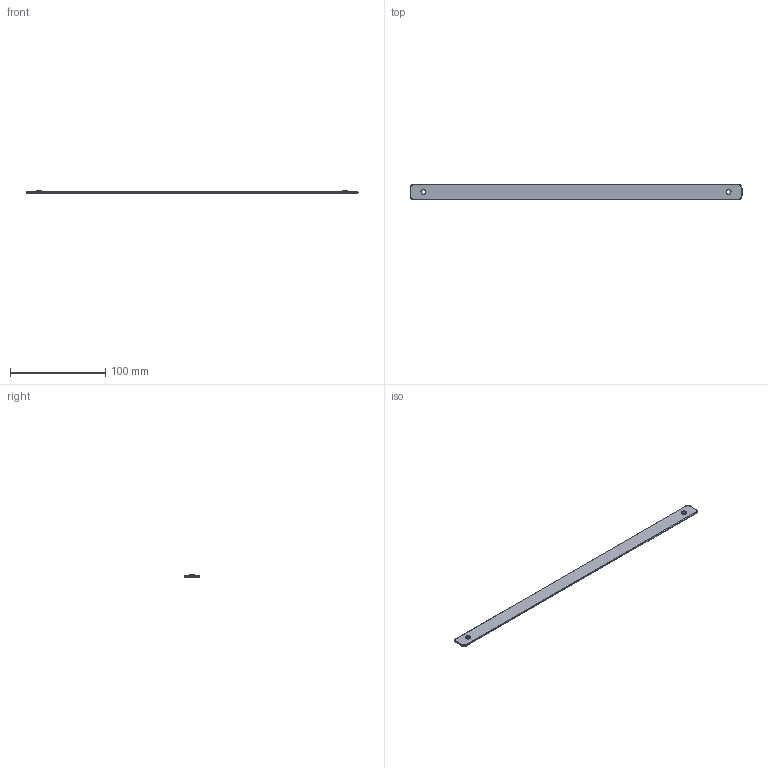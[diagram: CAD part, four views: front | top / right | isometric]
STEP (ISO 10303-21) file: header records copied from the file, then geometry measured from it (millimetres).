
FILE_DESCRIPTION(('Open CASCADE Model'),'2;1');
FILE_NAME('W-BAR-WL320-16','2026-10-19T21:23:53',('Author'),( 'Open CASCADE'),'Open CASCADE STEP processor 8.0','build123d', 'Unknown');
FILE_SCHEMA(('AUTOMOTIVE_DESIGN { 1 0 10303 214 1 1 1 1 }'));
Length unit declared in the file: millimetre
Products named in the file (2): W-BAR-WL320-16; brass_WL320-16__w
Assembly tree (1 placements, depth 2):
  W-BAR-WL320-16
    brass_WL320-16__w
Bounding box: 348 x 16 x 2.49 mm (x, y, z)
Volume: 8227.9 mm3; surface area: 11960.1 mm2
Topology: 1 solids, 1 shells, 32 faces, 68 edges, 40 vertices
Faces by surface type: plane 12, cylinder 12, cone 4, torus 4
Full cylindrical faces by diameter (mm): 4.3 x2, 5 x2
Entity records: 1768 total; most frequent: CARTESIAN_POINT 358, DIRECTION 264, ORIENTED_EDGE 136, PCURVE 136, DEFINITIONAL_REPRESENTATION 136, LINE 124, VECTOR 124, EDGE_CURVE 68
